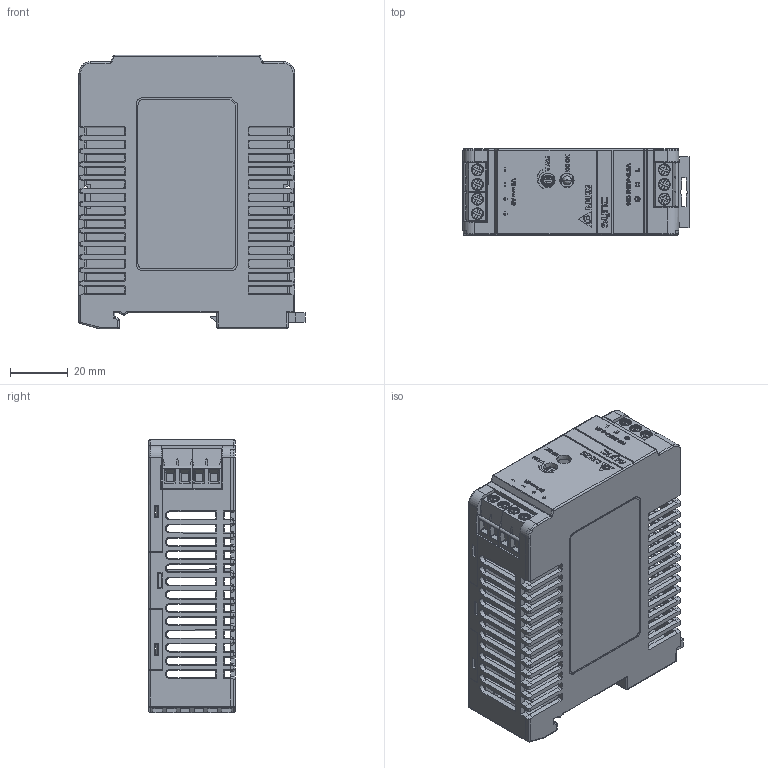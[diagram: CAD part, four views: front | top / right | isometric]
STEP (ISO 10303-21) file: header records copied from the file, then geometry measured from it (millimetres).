
FILE_DESCRIPTION((''),'2;1');
FILE_NAME('PD00-DRS-5V50W1AZ_ASM','2018-09-19T',('pattrapol.seng'),(''),'PRO/ENGINEER BY PARAMETRIC TECHNOLOGY CORPORATION, 2010180','PRO/ENGINEER BY PARAMETRIC TECHNOLOGY CORPORATION, 2010180','');
FILE_SCHEMA(('CONFIG_CONTROL_DESIGN','SHAPE_APPEARANCE_LAYERS_GROUPS'));
Products named in the file (18): MAINBOARD_50W; DC_BOARD_50W; 307655086G; 307655076G; MB310-508M03Y_INPUT; MB310-508M02Y_OUTPUT_50W; MB310-508M04Y_ASM; ASSY_DCT-XXXX_ASM; EE_LED_50W; EE_VR-50W; 307022146G; 307022136G; ASSY_MAINBOARD_50W_ASM; 3300026TPS00; 3471801700_CLIP-BOM; 5V_50W_AZ; 326860490000_SPEC_LABEL; PD00-DRS-5V50W1AZ_ASM
Assembly tree (18 placements, depth 5):
  PD00-DRS-5V50W1AZ_ASM
    ASSY_MAINBOARD_50W_ASM
      MAINBOARD_50W
      ASSY_DCT-XXXX_ASM
        DC_BOARD_50W
        307655086G
        307655076G
        MB310-508M03Y_INPUT
        MB310-508M04Y_ASM
          MB310-508M02Y_OUTPUT_50W  x2
      EE_LED_50W
      EE_VR-50W
      307022146G
      307022136G
    3300026TPS00
    3471801700_CLIP-BOM
    5V_50W_AZ
    326860490000_SPEC_LABEL
Bounding box: 78.6 x 30 x 95.03 mm (x, y, z)
Volume: 49551.6 mm3; surface area: 74072.6 mm2
Topology: 15 solids, 18 shells, 6059 faces, 14591 edges, 8695 vertices
Faces by surface type: plane 2556, cylinder 1895, sphere 599, torus 486, extrusion 212, bspline 182, cone 129
Entity records: 207276 total; most frequent: CARTESIAN_POINT 40883, ORIENTED_EDGE 27272, DIRECTION 27177, EDGE_CURVE 13636, PRESENTATION_STYLE_ASSIGNMENT 10794, STYLED_ITEM 10544, CURVE_STYLE 10486, AXIS2_PLACEMENT_3D 9201
